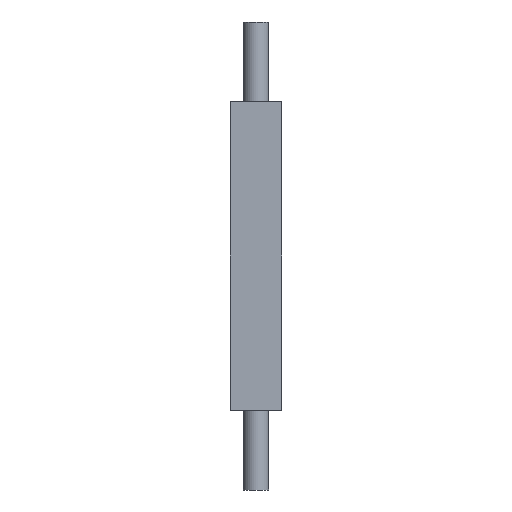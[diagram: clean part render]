
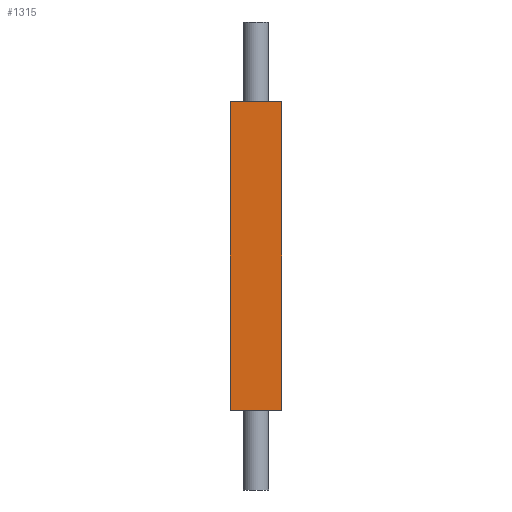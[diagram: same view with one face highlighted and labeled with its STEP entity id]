
A CAD part, front view. The second image highlights one B-rep face of the part: STEP entity #1315.
In plain terms, the highlighted planar face has unit normal (0, -1, 0) as drawn and (0, 0, 1) by its records, which use the part's own axes.
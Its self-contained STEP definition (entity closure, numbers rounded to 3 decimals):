
#3 = ORIENTED_EDGE ( 'NONE', *, *, #1263, .F. ) ;
#11 = LINE ( 'NONE', #1383, #1240 ) ;
#28 = LINE ( 'NONE', #1471, #1252 ) ;
#67 = EDGE_CURVE ( 'NONE', #905, #357, #11, .T. ) ;
#88 = DIRECTION ( 'NONE',  ( -1., 0., 0. ) ) ;
#132 = LINE ( 'NONE', #400, #763 ) ;
#257 = LINE ( 'NONE', #1443, #1492 ) ;
#261 = AXIS2_PLACEMENT_3D ( 'NONE', #964, #1332, #607 ) ;
#266 = EDGE_CURVE ( 'NONE', #345, #671, #132, .T. ) ;
#345 = VERTEX_POINT ( 'NONE', #1121 ) ;
#357 = VERTEX_POINT ( 'NONE', #519 ) ;
#369 = PLANE ( 'NONE',  #261 ) ;
#400 = CARTESIAN_POINT ( 'NONE',  ( 10., 0., 10. ) ) ;
#433 = ORIENTED_EDGE ( 'NONE', *, *, #266, .F. ) ;
#519 = CARTESIAN_POINT ( 'NONE',  ( -10., 120., 10. ) ) ;
#607 = DIRECTION ( 'NONE',  ( 1., 0., 0. ) ) ;
#671 = VERTEX_POINT ( 'NONE', #1426 ) ;
#679 = ORIENTED_EDGE ( 'NONE', *, *, #67, .T. ) ;
#763 = VECTOR ( 'NONE', #1239, 1000. ) ;
#770 = ORIENTED_EDGE ( 'NONE', *, *, #1137, .T. ) ;
#844 = DIRECTION ( 'NONE',  ( 0., -1., 0. ) ) ;
#905 = VERTEX_POINT ( 'NONE', #1209 ) ;
#964 = CARTESIAN_POINT ( 'NONE',  ( 10., 120., 10. ) ) ;
#1121 = CARTESIAN_POINT ( 'NONE',  ( 10., 0., 10. ) ) ;
#1137 = EDGE_CURVE ( 'NONE', #357, #671, #28, .T. ) ;
#1171 = FACE_OUTER_BOUND ( 'NONE', #1265, .T. ) ;
#1209 = CARTESIAN_POINT ( 'NONE',  ( 10., 120., 10. ) ) ;
#1239 = DIRECTION ( 'NONE',  ( -1., 0., 0. ) ) ;
#1240 = VECTOR ( 'NONE', #88, 1000. ) ;
#1252 = VECTOR ( 'NONE', #1353, 1000. ) ;
#1263 = EDGE_CURVE ( 'NONE', #905, #345, #257, .T. ) ;
#1265 = EDGE_LOOP ( 'NONE', ( #433, #3, #679, #770 ) ) ;
#1315 = ADVANCED_FACE ( 'NONE', ( #1171 ), #369, .T. ) ;
#1332 = DIRECTION ( 'NONE',  ( 0., 0., 1. ) ) ;
#1353 = DIRECTION ( 'NONE',  ( 0., -1., 0. ) ) ;
#1383 = CARTESIAN_POINT ( 'NONE',  ( 10., 120., 10. ) ) ;
#1426 = CARTESIAN_POINT ( 'NONE',  ( -10., 0., 10. ) ) ;
#1443 = CARTESIAN_POINT ( 'NONE',  ( 10., 120., 10. ) ) ;
#1471 = CARTESIAN_POINT ( 'NONE',  ( -10., 120., 10. ) ) ;
#1492 = VECTOR ( 'NONE', #844, 1000. ) ;
